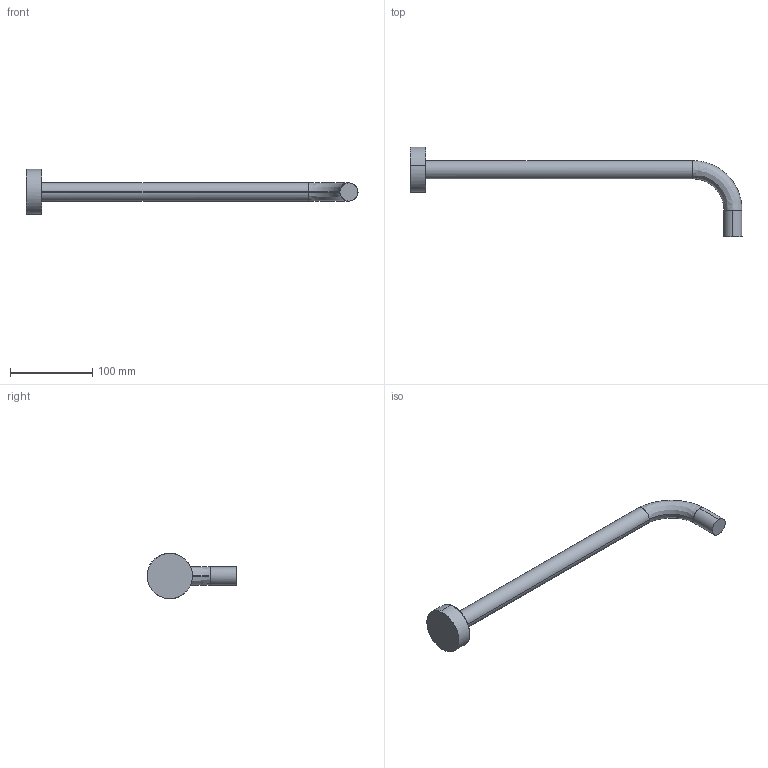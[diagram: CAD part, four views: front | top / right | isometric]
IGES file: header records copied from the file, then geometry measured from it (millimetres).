
Start section: 3D InterOp IGES (Version 21 0 1), Spatial Corp. Copyright (c) 1999-2007.
Global section: file name: b9445_3dpl.igs; native system: Spatial Corp.; preprocessor: 3D InterOp ACIS/IGES; author: Desislav Totev; organization: Ideal Standard International; date: 20110829.104723; units: millimetre
Bounding box: 403 x 109.01 x 55.02 mm (x, y, z)
Surface area: 37958 mm2 (no closed solid volume)
Topology: 0 solids, 0 shells, 15 faces, 251 edges, 250 vertices
Faces by surface type: bspline 15
